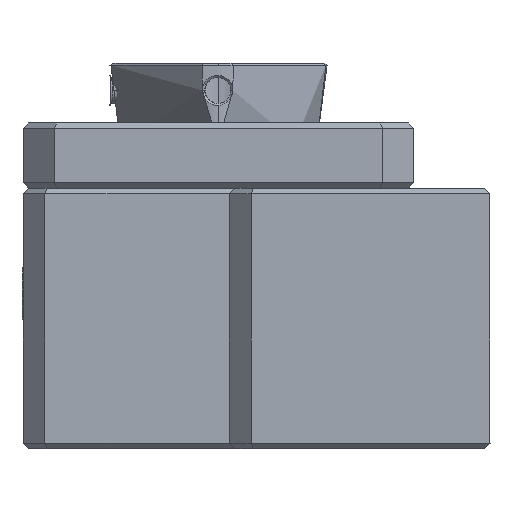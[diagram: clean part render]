
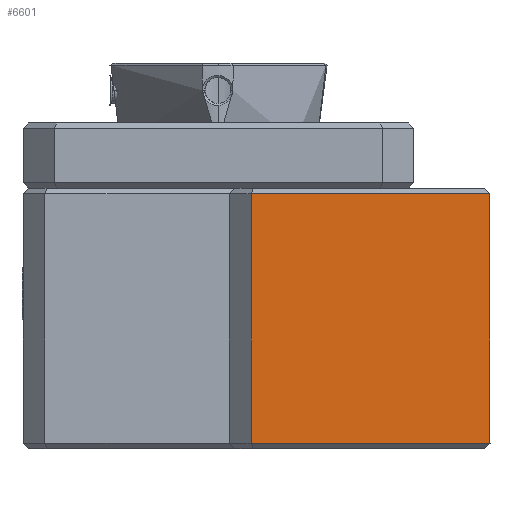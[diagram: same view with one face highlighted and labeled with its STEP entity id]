
A CAD part, left-side view. The second image highlights one B-rep face of the part: STEP entity #6601.
In plain terms, the highlighted planar face has unit normal (1, 0, 0).
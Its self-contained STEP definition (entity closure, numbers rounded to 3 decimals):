
#519 = CARTESIAN_POINT ( 'NONE',  ( -38.663, -15.908, 3.833 ) ) ;
#648 = EDGE_CURVE ( 'NONE', #7510, #4077, #11787, .T. ) ;
#702 = VERTEX_POINT ( 'NONE', #12230 ) ;
#1001 = B_SPLINE_CURVE_WITH_KNOTS ( 'NONE', 3,
 ( #12657, #6702, #4723, #6759 ),
 .UNSPECIFIED., .F., .F.,
 ( 4, 4 ),
 ( 0., 1. ),
 .UNSPECIFIED. ) ;
#1630 = CARTESIAN_POINT ( 'NONE',  ( -38.663, 6.092, -11.5 ) ) ;
#1763 = ORIENTED_EDGE ( 'NONE', *, *, #11906, .F. ) ;
#1811 = EDGE_LOOP ( 'NONE', ( #3209, #1763, #6554, #7602 ) ) ;
#2245 = CARTESIAN_POINT ( 'NONE',  ( -38.663, 6.092, 3.833 ) ) ;
#3119 = CARTESIAN_POINT ( 'NONE',  ( -38.663, -15.908, 11.5 ) ) ;
#3209 = ORIENTED_EDGE ( 'NONE', *, *, #9556, .T. ) ;
#3729 = AXIS2_PLACEMENT_3D ( 'NONE', #3119, #9015, #8054 ) ;
#3979 = VERTEX_POINT ( 'NONE', #4044 ) ;
#4044 = CARTESIAN_POINT ( 'NONE',  ( -38.663, -15.908, -11.5 ) ) ;
#4077 = VERTEX_POINT ( 'NONE', #6230 ) ;
#4723 = CARTESIAN_POINT ( 'NONE',  ( -38.663, -8.575, 11.5 ) ) ;
#5420 = CARTESIAN_POINT ( 'NONE',  ( -38.663, 6.092, -3.833 ) ) ;
#5592 = CARTESIAN_POINT ( 'NONE',  ( -38.663, -8.575, -11.5 ) ) ;
#5723 = CARTESIAN_POINT ( 'NONE',  ( -38.663, -15.908, 11.5 ) ) ;
#5733 = B_SPLINE_CURVE_WITH_KNOTS ( 'NONE', 3,
 ( #8477, #5592, #12486, #1630 ),
 .UNSPECIFIED., .F., .F.,
 ( 4, 4 ),
 ( 0., 1. ),
 .UNSPECIFIED. ) ;
#5864 = B_SPLINE_CURVE_WITH_KNOTS ( 'NONE', 3,
 ( #10758, #8663, #519, #5723 ),
 .UNSPECIFIED., .F., .F.,
 ( 4, 4 ),
 ( 0., 1. ),
 .UNSPECIFIED. ) ;
#6230 = CARTESIAN_POINT ( 'NONE',  ( -38.663, 6.092, -11.5 ) ) ;
#6554 = ORIENTED_EDGE ( 'NONE', *, *, #9211, .T. ) ;
#6601 = ADVANCED_FACE ( 'NONE', ( #9997 ), #8122, .T. ) ;
#6702 = CARTESIAN_POINT ( 'NONE',  ( -38.663, -1.241, 11.5 ) ) ;
#6759 = CARTESIAN_POINT ( 'NONE',  ( -38.663, -15.908, 11.5 ) ) ;
#7458 = CARTESIAN_POINT ( 'NONE',  ( -38.663, 6.092, -11.5 ) ) ;
#7510 = VERTEX_POINT ( 'NONE', #10604 ) ;
#7602 = ORIENTED_EDGE ( 'NONE', *, *, #648, .F. ) ;
#8054 = DIRECTION ( 'NONE',  ( 0., 1., 0. ) ) ;
#8122 = PLANE ( 'NONE',  #3729 ) ;
#8367 = CARTESIAN_POINT ( 'NONE',  ( -38.663, 6.092, 11.5 ) ) ;
#8477 = CARTESIAN_POINT ( 'NONE',  ( -38.663, -15.908, -11.5 ) ) ;
#8663 = CARTESIAN_POINT ( 'NONE',  ( -38.663, -15.908, -3.833 ) ) ;
#9015 = DIRECTION ( 'NONE',  ( 1., 0., 0. ) ) ;
#9211 = EDGE_CURVE ( 'NONE', #3979, #4077, #5733, .T. ) ;
#9556 = EDGE_CURVE ( 'NONE', #7510, #702, #1001, .T. ) ;
#9997 = FACE_OUTER_BOUND ( 'NONE', #1811, .T. ) ;
#10604 = CARTESIAN_POINT ( 'NONE',  ( -38.663, 6.092, 11.5 ) ) ;
#10758 = CARTESIAN_POINT ( 'NONE',  ( -38.663, -15.908, -11.5 ) ) ;
#11787 = B_SPLINE_CURVE_WITH_KNOTS ( 'NONE', 3,
 ( #8367, #2245, #5420, #7458 ),
 .UNSPECIFIED., .F., .F.,
 ( 4, 4 ),
 ( 0., 1. ),
 .UNSPECIFIED. ) ;
#11906 = EDGE_CURVE ( 'NONE', #3979, #702, #5864, .T. ) ;
#12230 = CARTESIAN_POINT ( 'NONE',  ( -38.663, -15.908, 11.5 ) ) ;
#12486 = CARTESIAN_POINT ( 'NONE',  ( -38.663, -1.241, -11.5 ) ) ;
#12657 = CARTESIAN_POINT ( 'NONE',  ( -38.663, 6.092, 11.5 ) ) ;
